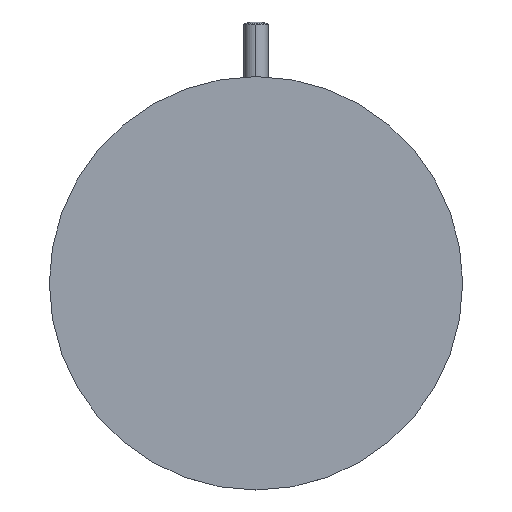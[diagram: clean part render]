
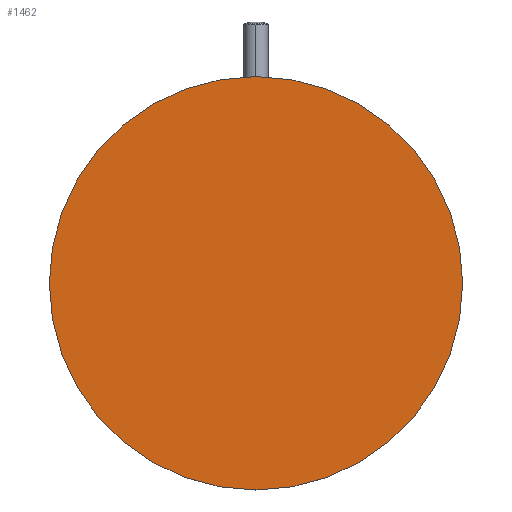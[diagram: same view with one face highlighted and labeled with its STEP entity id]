
A CAD part, top view. The second image highlights one B-rep face of the part: STEP entity #1462.
In plain terms, the highlighted planar face has unit normal (0, 0, 1).
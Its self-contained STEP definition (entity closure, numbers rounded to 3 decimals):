
#66 = ORIENTED_EDGE ( 'NONE', *, *, #1412, .T. ) ;
#115 = CIRCLE ( 'NONE', #1377, 85. ) ;
#263 = CARTESIAN_POINT ( 'NONE',  ( 0., 0., 2. ) ) ;
#409 = CIRCLE ( 'NONE', #1454, 85. ) ;
#511 = DIRECTION ( 'NONE',  ( 1., 0., 0. ) ) ;
#524 = CARTESIAN_POINT ( 'NONE',  ( 0., 0., 2. ) ) ;
#598 = EDGE_CURVE ( 'NONE', #1061, #1482, #115, .T. ) ;
#633 = DIRECTION ( 'NONE',  ( 0., 0., 1. ) ) ;
#641 = DIRECTION ( 'NONE',  ( 1., 0., 0. ) ) ;
#692 = DIRECTION ( 'NONE',  ( 0., 0., 1. ) ) ;
#708 = EDGE_LOOP ( 'NONE', ( #825, #66 ) ) ;
#773 = AXIS2_PLACEMENT_3D ( 'NONE', #1659, #1054, #641 ) ;
#825 = ORIENTED_EDGE ( 'NONE', *, *, #598, .T. ) ;
#887 = PLANE ( 'NONE',  #773 ) ;
#897 = CARTESIAN_POINT ( 'NONE',  ( 85., 0., 2. ) ) ;
#1054 = DIRECTION ( 'NONE',  ( 0., 0., 1. ) ) ;
#1061 = VERTEX_POINT ( 'NONE', #1378 ) ;
#1136 = FACE_OUTER_BOUND ( 'NONE', #708, .T. ) ;
#1376 = DIRECTION ( 'NONE',  ( 1., 0., 0. ) ) ;
#1377 = AXIS2_PLACEMENT_3D ( 'NONE', #263, #692, #1376 ) ;
#1378 = CARTESIAN_POINT ( 'NONE',  ( -85., 0., 2. ) ) ;
#1412 = EDGE_CURVE ( 'NONE', #1482, #1061, #409, .T. ) ;
#1454 = AXIS2_PLACEMENT_3D ( 'NONE', #524, #633, #511 ) ;
#1462 = ADVANCED_FACE ( 'NONE', ( #1136 ), #887, .T. ) ;
#1482 = VERTEX_POINT ( 'NONE', #897 ) ;
#1659 = CARTESIAN_POINT ( 'NONE',  ( 0., 27.5, 2. ) ) ;
